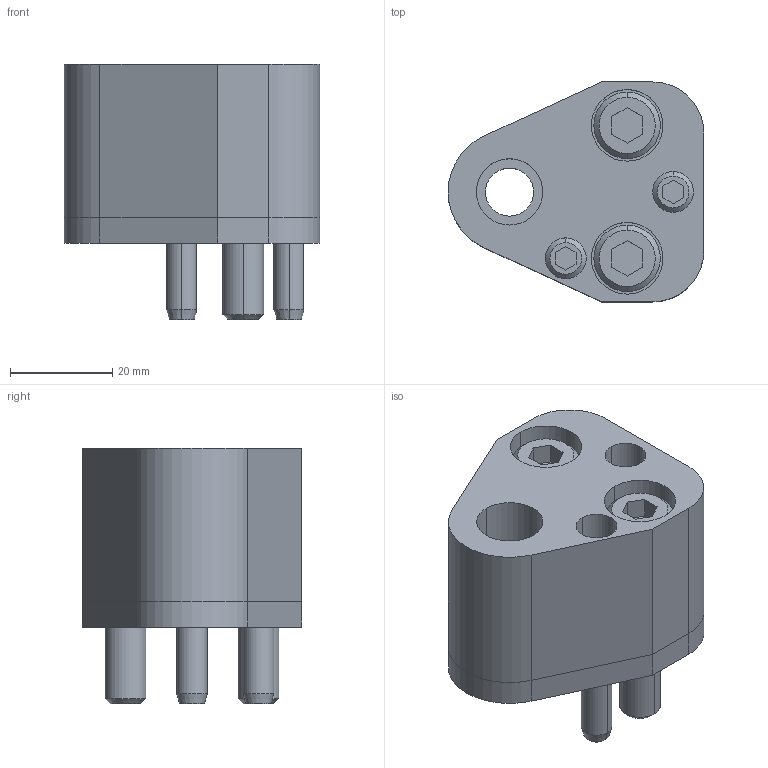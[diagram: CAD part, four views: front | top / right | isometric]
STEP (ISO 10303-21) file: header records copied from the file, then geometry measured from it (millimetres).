
FILE_DESCRIPTION(/* description */ (''),/* implementation_level */ '2;1');
FILE_NAME(/* name */ '3d_dp-ad13_02811_r00.stp',/* time_stamp */ '2011-01-10T14:15:59+09:00',/* author */ ('MISUMI'),/* organization */ (''),/* preprocessor_version */ 'ST-DEVELOPER v11',/* originating_system */ 'UGS - NX 5.0',/* authorisation */ '');
FILE_SCHEMA (('CONFIG_CONTROL_DESIGN'));
Length unit declared in the file: millimetre
Products named in the file (1): 3d_dp-ad13_02811_r00
Bounding box: 50 x 43 x 50 mm (x, y, z)
Volume: 52546.8 mm3; surface area: 21471.8 mm2
Topology: 8 solids, 8 shells, 155 faces, 346 edges, 222 vertices
Faces by surface type: plane 67, cylinder 62, cone 26
Entity records: 4480 total; most frequent: DIRECTION 804, CARTESIAN_POINT 778, ORIENTED_EDGE 692, EDGE_CURVE 346, AXIS2_PLACEMENT_3D 306, VERTEX_POINT 222, LINE 192, VECTOR 192
